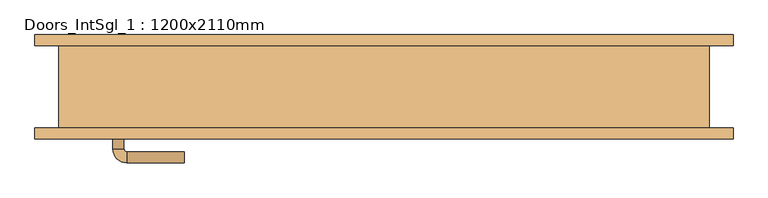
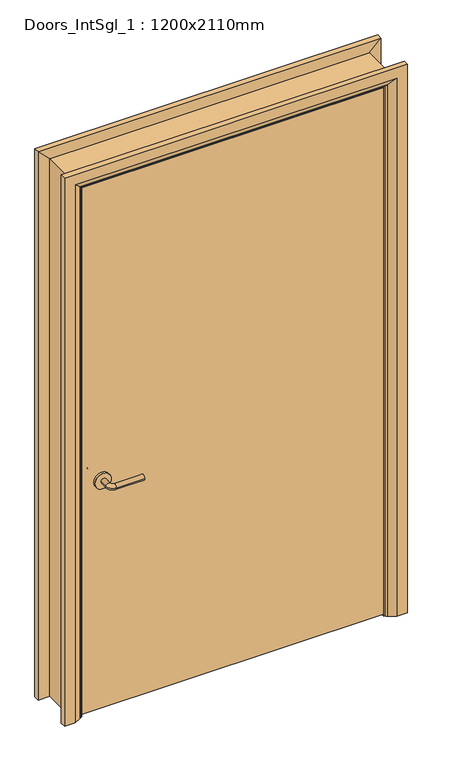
"""IFC4 building model written with IfcOpenShell, lengths in millimetres: door geometry, Doors_IntSgl_1 : 1200x2110mm."""

from ifc_helpers import new_model, si_unit, point, frame, frame_2d, origin, place, context, project, spatial, polyline, circle_curve, ellipse_curve, trimmed, segment, composite_curve, outline, extrude, faceted_brep, source, transform, mapped, element, save
from ifc_brep_helpers import plane_surface, cylinder_surface, revolved_surface, advanced_brep


def doors_intsgl_1_1200x2110mm_07b1b6db(model_context):
    return source(origin(), model_context, "Body", "SolidModel", [
        advanced_brep(
        [(-493.0, -29.0, 900.0), (-473.0, -29.0, 900.0), (-493.0, 1.0, 900.0), (-473.0, 1.0, 900.0), (-468.0, 6.0, 900.0), (-468.0, 26.0, 900.0), (-363.0, 26.0, 900.0), (-363.0, 6.0, 900.0)],
        [
            (0, 1, circle_curve(frame((-483.0, -29.0, 900.0), z_axis=(0.0, -1.0, 0.0), x_axis=(1.0, 0.0, 0.0)), 10.0)),
            (1, 0, circle_curve(frame((-483.0, -29.0, 900.0), z_axis=(0.0, -1.0, 0.0), x_axis=(1.0, 0.0, 0.0)), 10.0)),
            (0, 2),
            (2, 3, circle_curve(frame((-483.0, 1.0, 900.0), z_axis=(0.0, -1.0, 0.0), x_axis=(1.0, 0.0, 0.0)), 10.0)),
            (3, 1),
            (3, 2, circle_curve(frame((-483.0, 1.0, 900.0), z_axis=(0.0, -1.0, 0.0), x_axis=(1.0, 0.0, 0.0)), 10.0)),
            (4, 3, circle_curve(frame((-468.0, 1.0, 900.0), z_axis=(0.0, 0.0, 1.0), x_axis=(-1.0, 0.0, 0.0)), 5.0)),
            (2, 5, circle_curve(frame((-468.0, 1.0, 900.0), z_axis=(0.0, 0.0, -1.0), x_axis=(-1.0, 0.0, 0.0)), 25.0)),
            (5, 4, circle_curve(frame((-468.0, 16.0, 900.0), z_axis=(-1.0, 0.0, 0.0), x_axis=(0.0, -1.0, 0.0)), 10.0)),
            (4, 5, circle_curve(frame((-468.0, 16.0, 900.0), z_axis=(-1.0, 0.0, 0.0), x_axis=(0.0, -1.0, 0.0)), 10.0)),
            (6, 7, circle_curve(frame((-363.0, 16.0, 900.0), z_axis=(1.0, 0.0, 0.0), x_axis=(0.0, -1.0, 0.0)), 10.0)),
            (7, 6, circle_curve(frame((-363.0, 16.0, 900.0), z_axis=(1.0, 0.0, 0.0), x_axis=(0.0, -1.0, 0.0)), 10.0)),
            (5, 6),
            (7, 4),
        ],
        [
            plane_surface(frame((-483.0, -29.0, 900.0), z_axis=(0.0, -1.0, 0.0), x_axis=(0.0, 0.0, 1.0))),
            cylinder_surface(frame((-483.0, -29.0, 900.0), z_axis=(0.0, -1.0, 0.0), x_axis=(1.0, 0.0, 0.0)), 10.0),
            revolved_surface(trimmed(ellipse_curve(frame((-483.0, 1.0, 900.0), z_axis=(0.0, -1.0, 0.0), x_axis=(1.0, 0.0, 0.0)), 10.0, 10.0), [point((-493.0, 1.0, 900.0))], [point((-473.0, 1.0, 900.0))], True, "CARTESIAN"), (-468.0, 1.0, 900.0), (0.0, 0.0, -1.0)),
            revolved_surface(trimmed(ellipse_curve(frame((-483.0, 1.0, 900.0), z_axis=(0.0, -1.0, 0.0), x_axis=(1.0, 0.0, 0.0)), 10.0, 10.0), [point((-473.0, 1.0, 900.0))], [point((-493.0, 1.0, 900.0))], True, "CARTESIAN"), (-468.0, 1.0, 900.0), (0.0, 0.0, -1.0)),
            plane_surface(frame((-363.0, 16.0, 900.0), z_axis=(1.0, 0.0, 0.0), x_axis=(0.0, 0.0, 1.0))),
            cylinder_surface(frame((-468.0, 16.0, 900.0), z_axis=(-1.0, 0.0, 0.0), x_axis=(0.0, -1.0, 0.0)), 10.0),
        ],
        [
            (0, [[1, 2]]),
            (1, [[-1, 3, 4, 5]]),
            (1, [[-2, -5, 6, -3]]),
            (2, [[7, -4, 8, 9]]),
            (3, [[-8, -6, -7, 10]]),
            (4, [[11, 12]]),
            (5, [[-9, 13, -12, 14]]),
            (5, [[-10, -14, -11, -13]]),
        ],
    ),
        extrude(outline(composite_curve([segment(trimmed(circle_curve(frame_2d((900.0, -485.5)), 30.0), [point((900.0, -515.5))], [point((900.0, -455.5))], False, "CARTESIAN"), True, "CONTINUOUS"), segment(trimmed(circle_curve(frame_2d((900.0, -485.5)), 30.0), [point((900.0, -455.5))], [point((900.0, -515.5))], False, "CARTESIAN"), True, "CONTINUOUS")], self_intersect=False)), frame((0.0, -37.0, 0.0), z_axis=(0.0, 1.0, 0.0), x_axis=(0.0, 0.0, 1.0)), (0.0, 0.0, 1.0), 8.0),
        advanced_brep(
        [(-493.0, -83.0, 900.0), (-473.0, -83.0, 900.0), (-473.0, -113.0, 900.0), (-493.0, -113.0, 900.0), (-468.0, -118.0, 900.0), (-468.0, -138.0, 900.0), (-363.0, -138.0, 900.0), (-363.0, -118.0, 900.0)],
        [
            (0, 1, circle_curve(frame((-483.0, -83.0, 900.0), z_axis=(0.0, 1.0, 0.0), x_axis=(1.0, 0.0, 0.0)), 10.0)),
            (1, 0, circle_curve(frame((-483.0, -83.0, 900.0), z_axis=(0.0, 1.0, 0.0), x_axis=(1.0, 0.0, 0.0)), 10.0)),
            (1, 2),
            (2, 3, circle_curve(frame((-483.0, -113.0, 900.0), z_axis=(0.0, 1.0, 0.0), x_axis=(1.0, 0.0, 0.0)), 10.0)),
            (3, 0),
            (3, 2, circle_curve(frame((-483.0, -113.0, 900.0), z_axis=(0.0, 1.0, 0.0), x_axis=(1.0, 0.0, 0.0)), 10.0)),
            (4, 5, circle_curve(frame((-468.0, -128.0, 900.0), z_axis=(-1.0, 0.0, 0.0), x_axis=(0.0, 1.0, 0.0)), 10.0)),
            (5, 3, circle_curve(frame((-468.0, -113.0, 900.0), z_axis=(0.0, 0.0, -1.0), x_axis=(-1.0, 0.0, 0.0)), 25.0)),
            (2, 4, circle_curve(frame((-468.0, -113.0, 900.0), z_axis=(0.0, 0.0, 1.0), x_axis=(-1.0, 0.0, 0.0)), 5.0)),
            (5, 4, circle_curve(frame((-468.0, -128.0, 900.0), z_axis=(-1.0, 0.0, 0.0), x_axis=(0.0, 1.0, 0.0)), 10.0)),
            (6, 7, circle_curve(frame((-363.0, -128.0, 900.0), z_axis=(1.0, 0.0, 0.0), x_axis=(0.0, 1.0, 0.0)), 10.0)),
            (7, 6, circle_curve(frame((-363.0, -128.0, 900.0), z_axis=(1.0, 0.0, 0.0), x_axis=(0.0, 1.0, 0.0)), 10.0)),
            (4, 7),
            (6, 5),
        ],
        [
            plane_surface(frame((-483.0, -83.0, 900.0), z_axis=(0.0, 1.0, 0.0), x_axis=(0.0, 0.0, 1.0))),
            cylinder_surface(frame((-483.0, -83.0, 900.0), z_axis=(0.0, 1.0, 0.0), x_axis=(1.0, 0.0, 0.0)), 10.0),
            revolved_surface(trimmed(ellipse_curve(frame((-483.0, -113.0, 900.0), z_axis=(0.0, -1.0, 0.0), x_axis=(1.0, 0.0, 0.0)), 10.0, 10.0), [point((-493.0, -113.0, 900.0))], [point((-473.0, -113.0, 900.0))], True, "CARTESIAN"), (-468.0, -113.0, 900.0), (0.0, 0.0, -1.0)),
            revolved_surface(trimmed(ellipse_curve(frame((-483.0, -113.0, 900.0), z_axis=(0.0, -1.0, 0.0), x_axis=(1.0, 0.0, 0.0)), 10.0, 10.0), [point((-473.0, -113.0, 900.0))], [point((-493.0, -113.0, 900.0))], True, "CARTESIAN"), (-468.0, -113.0, 900.0), (0.0, 0.0, -1.0)),
            plane_surface(frame((-363.0, -128.0, 900.0), z_axis=(1.0, 0.0, 0.0), x_axis=(0.0, 0.0, 1.0))),
            cylinder_surface(frame((-468.0, -128.0, 900.0), z_axis=(-1.0, 0.0, 0.0), x_axis=(0.0, 1.0, 0.0)), 10.0),
        ],
        [
            (0, [[1, 2]]),
            (1, [[3, 4, 5, -2]]),
            (1, [[-5, 6, -3, -1]]),
            (2, [[7, 8, -4, 9]]),
            (3, [[10, -9, -6, -8]]),
            (4, [[11, 12]]),
            (5, [[13, -11, 14, -7]]),
            (5, [[-14, -12, -13, -10]]),
        ],
    ),
        extrude(outline(composite_curve([segment(trimmed(circle_curve(frame_2d((900.0, -485.5)), 30.0), [point((900.0, -515.5))], [point((900.0, -455.5))], False, "CARTESIAN"), True, "CONTINUOUS"), segment(trimmed(circle_curve(frame_2d((900.0, -485.5)), 30.0), [point((900.0, -455.5))], [point((900.0, -515.5))], False, "CARTESIAN"), True, "CONTINUOUS")], self_intersect=False)), frame((0.0, -83.0, 0.0), z_axis=(0.0, 1.0, 0.0), x_axis=(0.0, 0.0, 1.0)), (0.0, 0.0, 1.0), 8.0),
        extrude(outline(polyline([(558.0, -37.0), (558.0, -75.0), (-558.0, -75.0), (-558.0, -37.0), (558.0, -37.0)])), frame((0.0, 0.0, 8.0), z_axis=(0.0, 0.0, 1.0), x_axis=(1.0, 0.0, 0.0)), (0.0, 0.0, 1.0), 2060.0),
        advanced_brep(
        [(635.0, -95.0, 0.0), (595.0, -95.0, 0.0), (569.0, -81.0, 0.0), (565.0, -75.0, 0.0), (635.0, -75.0, 0.0), (635.0, -75.0, 2145.0), (635.0, -95.0, 2145.0), (565.0, -75.0, 2075.0), (-565.0, -75.0, 2075.0), (-565.0, -75.0, 0.0), (-635.0, -75.0, 0.0), (-635.0, -75.0, 2145.0), (569.0, -81.0, 2079.0), (595.0, -95.0, 2105.0), (-635.0, -95.0, 2145.0), (-635.0, -95.0, 0.0), (-595.0, -95.0, 0.0), (-595.0, -95.0, 2105.0), (-569.0, -81.0, 0.0), (-569.0, -81.0, 2079.0)],
        [
            (0, 1),
            (1, 2),
            (2, 3, circle_curve(frame((573.0, -74.0, 0.0), z_axis=(0.0, 0.0, -1.0), x_axis=(1.0, 0.0, 0.0)), 8.0622577)),
            (3, 4),
            (4, 0),
            (4, 5),
            (5, 6),
            (6, 0),
            (3, 7),
            (7, 8),
            (8, 9),
            (9, 10),
            (10, 11),
            (11, 5),
            (2, 12),
            (12, 7, ellipse_curve(frame((573.0, -74.0, 2083.0), z_axis=(0.7071067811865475, 0.0, -0.7071067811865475), x_axis=(-0.7071067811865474, 0.0, -0.7071067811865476)), 11.4017543, 8.0622577)),
            (1, 13),
            (13, 12),
            (6, 14),
            (14, 15),
            (15, 16),
            (16, 17),
            (17, 13),
            (10, 15),
            (14, 11),
            (9, 18, circle_curve(frame((-573.0, -74.0, 0.0), z_axis=(0.0, 0.0, -1.0), x_axis=(-1.0, 0.0, 0.0)), 8.0622577)),
            (18, 16),
            (19, 18),
            (8, 19, ellipse_curve(frame((-573.0, -74.0, 2083.0), z_axis=(-0.7071067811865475, 0.0, -0.7071067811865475), x_axis=(-0.7071067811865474, 0.0, 0.7071067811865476)), 11.4017543, 8.0622577)),
            (19, 17),
            (12, 19),
        ],
        [
            plane_surface(frame((565.0, -75.0, 0.0), z_axis=(0.0, 0.0, -1.0), x_axis=(0.0, 1.0, 0.0))),
            plane_surface(frame((635.0, -95.0, 0.0), z_axis=(1.0, 0.0, 0.0), x_axis=(0.0, 0.0, 1.0))),
            plane_surface(frame((635.0, -75.0, 0.0), z_axis=(0.0, 1.0, 0.0), x_axis=(0.0, 0.0, 1.0))),
            cylinder_surface(frame((573.0, -74.0, 0.0), z_axis=(0.0, 0.0, -1.0), x_axis=(1.0, 0.0, 0.0)), 8.0622577),
            plane_surface(frame((569.0, -81.0, 0.0), z_axis=(-0.4740998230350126, -0.880471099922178, 0.0), x_axis=(0.0, 0.0, 1.0))),
            plane_surface(frame((595.0, -95.0, 0.0), z_axis=(0.0, -1.0, 0.0), x_axis=(0.0, 0.0, 1.0))),
            plane_surface(frame((-635.0, -95.0, 2145.0), z_axis=(-1.0, 0.0, 0.0), x_axis=(0.0, 0.0, -1.0))),
            plane_surface(frame((-565.0, -75.0, 0.0), z_axis=(0.0, 0.0, -1.0), x_axis=(0.0, 1.0, 0.0))),
            cylinder_surface(frame((-573.0, -74.0, 2075.0), z_axis=(0.0, 0.0, 1.0), x_axis=(-1.0, 0.0, 0.0)), 8.0622577),
            plane_surface(frame((-569.0, -81.0, 2079.0), z_axis=(0.47409982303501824, -0.8804710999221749, 0.0), x_axis=(0.0, 0.0, -1.0))),
            plane_surface(frame((635.0, -95.0, 2145.0), z_axis=(0.0, 0.0, 1.0), x_axis=(-1.0, 0.0, 0.0))),
            cylinder_surface(frame((565.0, -74.0, 2083.0), z_axis=(1.0, 0.0, 0.0), x_axis=(0.0, 0.0, 1.0)), 8.0622577),
            plane_surface(frame((569.0, -81.0, 2079.0), z_axis=(0.0, -0.8804710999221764, -0.4740998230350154), x_axis=(-1.0, 0.0, 0.0))),
        ],
        [
            (0, [[1, 2, 3, 4, 5]]),
            (1, [[6, 7, 8, -5]]),
            (2, [[9, 10, 11, 12, 13, 14, -6, -4]]),
            (3, [[15, 16, -9, -3]]),
            (4, [[17, 18, -15, -2]]),
            (5, [[-8, 19, 20, 21, 22, 23, -17, -1]]),
            (6, [[-13, 24, -20, 25]]),
            (7, [[-24, -12, 26, 27, -21]]),
            (8, [[28, -26, -11, 29]]),
            (9, [[-22, -27, -28, 30]]),
            (10, [[-14, -25, -19, -7]]),
            (11, [[31, -29, -10, -16]]),
            (12, [[-23, -30, -31, -18]]),
        ],
    ),
        extrude(outline(polyline([(0.0, -541.0), (2051.0, -541.0), (2051.0, 541.0), (0.0, 541.0), (0.0, 560.0), (2070.0, 560.0), (2070.0, -560.0), (0.0, -560.0), (0.0, -541.0)])), frame((0.0, -35.0, 0.0), z_axis=(0.0, 1.0, 0.0), x_axis=(0.0, 0.0, 1.0)), (0.0, 0.0, 1.0), 32.0),
        advanced_brep(
        [(-635.0, 95.0, 0.0), (-595.0, 95.0, 0.0), (-569.0, 81.0, 0.0), (-565.0, 75.0, 0.0), (-635.0, 75.0, 0.0), (-635.0, 75.0, 2145.0), (-635.0, 95.0, 2145.0), (-565.0, 75.0, 2075.0), (-569.0, 81.0, 2079.0), (-595.0, 95.0, 2105.0), (635.0, 95.0, 0.0), (635.0, 75.0, 0.0), (565.0, 75.0, 0.0), (569.0, 81.0, 0.0), (595.0, 95.0, 0.0), (635.0, 95.0, 2145.0), (595.0, 95.0, 2105.0), (569.0, 81.0, 2079.0), (565.0, 75.0, 2075.0), (635.0, 75.0, 2145.0)],
        [
            (0, 1),
            (1, 2),
            (2, 3, circle_curve(frame((-573.0, 74.0, 0.0), z_axis=(0.0, 0.0, -1.0), x_axis=(-1.0, 0.0, 0.0)), 8.0622577)),
            (3, 4),
            (4, 0),
            (4, 5),
            (5, 6),
            (6, 0),
            (3, 7),
            (7, 5),
            (2, 8),
            (8, 7, ellipse_curve(frame((-573.0, 74.0, 2083.0), z_axis=(-0.7071067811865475, 0.0, -0.7071067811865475), x_axis=(0.7071067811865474, 0.0, -0.7071067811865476)), 11.4017543, 8.0622577)),
            (1, 9),
            (9, 8),
            (6, 9),
            (10, 11),
            (11, 12),
            (12, 13, circle_curve(frame((573.0, 74.0, 0.0), z_axis=(0.0, 0.0, -1.0), x_axis=(1.0, 0.0, 0.0)), 8.0622577)),
            (13, 14),
            (14, 10),
            (15, 10),
            (14, 16),
            (16, 15),
            (13, 17),
            (17, 16),
            (12, 18),
            (18, 17, ellipse_curve(frame((573.0, 74.0, 2083.0), z_axis=(0.7071067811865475, 0.0, -0.7071067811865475), x_axis=(0.7071067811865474, 0.0, 0.7071067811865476)), 11.4017543, 8.0622577)),
            (11, 19),
            (19, 18),
            (15, 19),
            (5, 19),
            (15, 6),
            (7, 18),
            (8, 17),
            (9, 16),
        ],
        [
            plane_surface(frame((-565.0, 147.8010989, 0.0), z_axis=(0.0, 0.0, -1.0), x_axis=(1.0, 0.0, 0.0))),
            plane_surface(frame((-635.0, 95.0, 0.0), z_axis=(-1.0, 0.0, 0.0), x_axis=(0.0, 0.0, 1.0))),
            plane_surface(frame((-635.0, 75.0, 0.0), z_axis=(0.0, -1.0, 0.0), x_axis=(0.0, 0.0, 1.0))),
            cylinder_surface(frame((-573.0, 74.0, 0.0), z_axis=(0.0, 0.0, -1.0), x_axis=(-1.0, 0.0, 0.0)), 8.0622577),
            plane_surface(frame((-569.0, 81.0, 0.0), z_axis=(0.4740998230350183, 0.8804710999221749, 0.0), x_axis=(0.0, 0.0, 1.0))),
            plane_surface(frame((-595.0, 95.0, 0.0), z_axis=(0.0, 1.0, 0.0), x_axis=(0.0, 0.0, 1.0))),
            plane_surface(frame((565.0, 147.8010989, 0.0), z_axis=(0.0, 0.0, -1.0), x_axis=(-1.0, 0.0, 0.0))),
            plane_surface(frame((595.0, 95.0, 2105.0), z_axis=(0.0, 1.0, 0.0), x_axis=(0.0, 0.0, -1.0))),
            plane_surface(frame((569.0, 81.0, 2079.0), z_axis=(-0.4740998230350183, 0.8804710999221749, 0.0), x_axis=(0.0, 0.0, -1.0))),
            cylinder_surface(frame((573.0, 74.0, 2075.0), z_axis=(0.0, 0.0, 1.0), x_axis=(1.0, 0.0, 0.0)), 8.0622577),
            plane_surface(frame((635.0, 75.0, 2145.0), z_axis=(0.0, -1.0, 0.0), x_axis=(0.0, 0.0, -1.0))),
            plane_surface(frame((635.0, 95.0, 2145.0), z_axis=(1.0, 0.0, 0.0), x_axis=(0.0, 0.0, -1.0))),
            plane_surface(frame((-635.0, 95.0, 2145.0), z_axis=(0.0, 0.0, 1.0), x_axis=(1.0, 0.0, 0.0))),
            plane_surface(frame((-635.0, 75.0, 2145.0), z_axis=(0.0, -1.0, 0.0), x_axis=(1.0, 0.0, 0.0))),
            cylinder_surface(frame((-565.0, 74.0, 2083.0), z_axis=(-1.0, 0.0, 0.0), x_axis=(0.0, 0.0, 1.0)), 8.0622577),
            plane_surface(frame((-569.0, 81.0, 2079.0), z_axis=(0.0, 0.8804710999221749, -0.4740998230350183), x_axis=(1.0, 0.0, 0.0))),
            plane_surface(frame((-595.0, 95.0, 2105.0), z_axis=(0.0, 1.0, 0.0), x_axis=(1.0, 0.0, 0.0))),
        ],
        [
            (0, [[1, 2, 3, 4, 5]]),
            (1, [[6, 7, 8, -5]]),
            (2, [[9, 10, -6, -4]]),
            (3, [[11, 12, -9, -3]]),
            (4, [[13, 14, -11, -2]]),
            (5, [[-8, 15, -13, -1]]),
            (6, [[16, 17, 18, 19, 20]]),
            (7, [[21, -20, 22, 23]]),
            (8, [[-22, -19, 24, 25]]),
            (9, [[-24, -18, 26, 27]]),
            (10, [[-26, -17, 28, 29]]),
            (11, [[-28, -16, -21, 30]]),
            (12, [[31, -30, 32, -7]]),
            (13, [[33, -29, -31, -10]]),
            (14, [[34, -27, -33, -12]]),
            (15, [[35, -25, -34, -14]]),
            (16, [[-32, -23, -35, -15]]),
        ],
    ),
        faceted_brep([(-560.0, -75.0, 0.0), (-592.0, -75.0, 0.0), (-592.0, 75.0, 0.0), (-560.0, 75.0, 0.0), (-560.0, 75.0, 2070.0), (-560.0, -75.0, 2070.0), (-592.0, 75.0, 2102.0), (-592.0, -75.0, 2102.0), (560.0, -75.0, 0.0), (560.0, 75.0, 0.0), (592.0, 75.0, 0.0), (592.0, -75.0, 0.0), (560.0, -75.0, 2070.0), (592.0, -75.0, 2102.0), (592.0, 75.0, 2102.0), (560.0, 75.0, 2070.0)], [[[0, 1, 2, 3]], [[3, 4, 5, 0]], [[2, 6, 4, 3]], [[1, 7, 6, 2]], [[0, 5, 7, 1]], [[8, 9, 10, 11]], [[12, 8, 11, 13]], [[13, 11, 10, 14]], [[14, 10, 9, 15]], [[15, 9, 8, 12]], [[4, 15, 12, 5]], [[6, 14, 15, 4]], [[7, 13, 14, 6]], [[5, 12, 13, 7]]]),
    ])


if __name__ == "__main__":
    model = new_model("IFC4")
    model_context = context("Model", 3, world=origin())
    ifc_project = project(units=[si_unit("LENGTHUNIT", "METRE", prefix="MILLI")], contexts=[model_context])
    site = spatial("IfcSite", under=ifc_project)
    building = spatial("IfcBuilding", under=site)
    placement = place(None, origin())
    doors_intsgl_1_1200x2110mm_shape = doors_intsgl_1_1200x2110mm_07b1b6db(model_context)
    element("IfcDoor", 1, ObjectType="Doors_IntSgl_1 : 1200x2110mm", at=placement, inside=building, context=model_context, shape_type="MappedRepresentation", body=[
        mapped(doors_intsgl_1_1200x2110mm_shape, transform((0.0, 0.0, 0.0), x_axis=(1.0, 0.0, 0.0), y_axis=(0.0, 1.0, 0.0), z_axis=(0.0, 0.0, 1.0))),
    ])
    save(model, "model.ifc")
